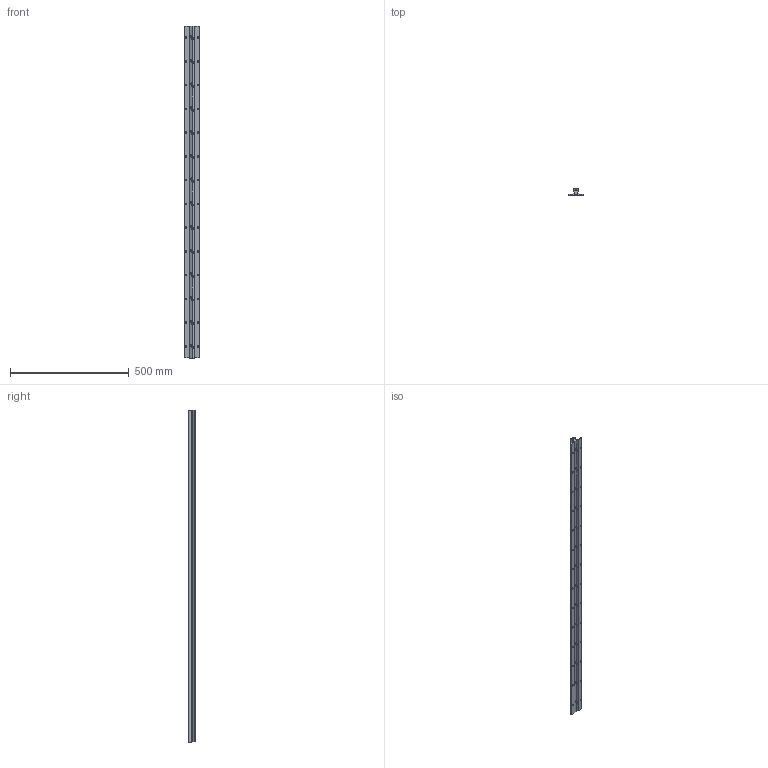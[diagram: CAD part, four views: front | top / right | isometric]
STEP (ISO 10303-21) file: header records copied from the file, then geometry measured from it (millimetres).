
FILE_DESCRIPTION (( 'STEP AP203' ), '1' );
FILE_NAME ('LF 2_-_LF 2 1398 mm lang.step', '2005-06-03T06:15:28', ( ' ' ), ( ' ' ), 'SwSTEP 2.0', 'SolidWorks 2004231', '' );
FILE_SCHEMA (( 'CONFIG_CONTROL_DESIGN' ));
Length unit declared in the file: millimetre
Products named in the file (1): LF 2_-_LF 2  1398 mm lang
Bounding box: 62 x 31 x 1398 mm (x, y, z)
Volume: 972705.6 mm3; surface area: 316114.5 mm2
Topology: 1 solids, 1 shells, 741 faces, 1938 edges, 1170 vertices
Faces by surface type: cylinder 374, plane 255, torus 56, cone 56
Entity records: 22897 total; most frequent: CARTESIAN_POINT 6034, ORIENTED_EDGE 3764, DIRECTION 3222, EDGE_CURVE 1882, VERTEX_POINT 1170, AXIS2_PLACEMENT_3D 1158, VECTOR 906, LINE 906
